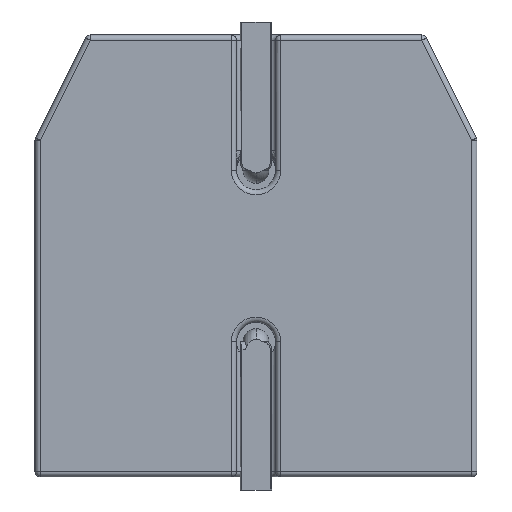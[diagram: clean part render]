
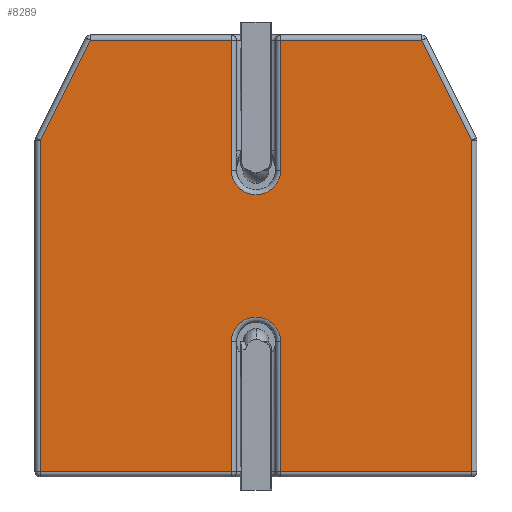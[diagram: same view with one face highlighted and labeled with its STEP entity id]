
A CAD part, left-side view. The second image highlights one B-rep face of the part: STEP entity #8289.
In plain terms, the highlighted planar face has unit normal (-1, 0, 0) as drawn and (0, -1, 0) by its records, which use the part's own axes.
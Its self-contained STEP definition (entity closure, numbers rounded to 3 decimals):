
#6063=DIRECTION('',(1.,0.,0.));
#6064=VECTOR('',#6063,7.35);
#6065=CARTESIAN_POINT('',(0.95,0.,-8.3));
#6066=LINE('',#6065,#6064);
#6067=DIRECTION('',(0.,0.,-1.));
#6068=VECTOR('',#6067,5.);
#6069=CARTESIAN_POINT('',(0.95,0.,-3.3));
#6070=LINE('',#6069,#6068);
#6071=DIRECTION('',(0.,0.,1.));
#6072=VECTOR('',#6071,5.);
#6073=CARTESIAN_POINT('',(-0.95,0.,-8.3));
#6074=LINE('',#6073,#6072);
#6075=DIRECTION('',(1.,0.,0.));
#6076=VECTOR('',#6075,7.35);
#6077=CARTESIAN_POINT('',(-8.3,0.,-8.3));
#6078=LINE('',#6077,#6076);
#6079=DIRECTION('',(0.,0.,1.));
#6080=VECTOR('',#6079,12.753);
#6081=CARTESIAN_POINT('',(-8.3,0.,-8.3));
#6082=LINE('',#6081,#6080);
#6083=DIRECTION('',(-0.447,0.,-0.894));
#6084=VECTOR('',#6083,4.301);
#6085=CARTESIAN_POINT('',(-6.376,0.,8.3));
#6086=LINE('',#6085,#6084);
#6087=DIRECTION('',(-1.,0.,0.));
#6088=VECTOR('',#6087,5.426);
#6089=CARTESIAN_POINT('',(-0.95,0.,8.3));
#6090=LINE('',#6089,#6088);
#6091=DIRECTION('',(0.,0.,1.));
#6092=VECTOR('',#6091,5.);
#6093=CARTESIAN_POINT('',(-0.95,0.,3.3));
#6094=LINE('',#6093,#6092);
#6095=DIRECTION('',(0.,0.,-1.));
#6096=VECTOR('',#6095,5.);
#6097=CARTESIAN_POINT('',(0.95,0.,8.3));
#6098=LINE('',#6097,#6096);
#6099=DIRECTION('',(-1.,0.,0.));
#6100=VECTOR('',#6099,5.426);
#6101=CARTESIAN_POINT('',(6.376,0.,8.3));
#6102=LINE('',#6101,#6100);
#6103=DIRECTION('',(-0.447,0.,0.894));
#6104=VECTOR('',#6103,4.301);
#6105=CARTESIAN_POINT('',(8.3,0.,4.453));
#6106=LINE('',#6105,#6104);
#6107=DIRECTION('',(0.,0.,1.));
#6108=VECTOR('',#6107,12.753);
#6109=CARTESIAN_POINT('',(8.3,0.,-8.3));
#6110=LINE('',#6109,#6108);
#6500=CARTESIAN_POINT('',(0.,0.,3.3));
#6501=DIRECTION('',(0.,1.,0.));
#6502=DIRECTION('',(1.,0.,0.));
#6503=AXIS2_PLACEMENT_3D('',#6500,#6501,#6502);
#6713=CARTESIAN_POINT('',(0.,0.,-3.3));
#6714=DIRECTION('',(0.,1.,0.));
#6715=DIRECTION('',(-1.,0.,0.));
#6716=AXIS2_PLACEMENT_3D('',#6713,#6714,#6715);
#7903=CARTESIAN_POINT('',(8.3,0.,-8.3));
#7904=CARTESIAN_POINT('',(8.3,0.,4.453));
#7905=VERTEX_POINT('',#7903);
#7906=VERTEX_POINT('',#7904);
#8011=CARTESIAN_POINT('',(-0.95,0.,-3.3));
#8012=CARTESIAN_POINT('',(0.95,0.,-3.3));
#8013=VERTEX_POINT('',#8011);
#8014=VERTEX_POINT('',#8012);
#8047=CARTESIAN_POINT('',(0.95,0.,3.3));
#8048=VERTEX_POINT('',#8047);
#8049=CARTESIAN_POINT('',(-0.95,0.,3.3));
#8050=VERTEX_POINT('',#8049);
#8055=CARTESIAN_POINT('',(-8.3,0.,4.453));
#8056=VERTEX_POINT('',#8055);
#8068=CARTESIAN_POINT('',(-6.376,0.,8.3));
#8070=VERTEX_POINT('',#8068);
#8138=CARTESIAN_POINT('',(-8.3,0.,-8.3));
#8139=VERTEX_POINT('',#8138);
#8140=CARTESIAN_POINT('',(6.376,0.,8.3));
#8141=VERTEX_POINT('',#8140);
#8171=CARTESIAN_POINT('',(-0.95,0.,-8.3));
#8173=VERTEX_POINT('',#8171);
#8195=CARTESIAN_POINT('',(0.95,0.,-8.3));
#8197=VERTEX_POINT('',#8195);
#8225=CARTESIAN_POINT('',(-0.95,0.,8.3));
#8226=VERTEX_POINT('',#8225);
#8228=CARTESIAN_POINT('',(0.95,0.,8.3));
#8230=VERTEX_POINT('',#8228);
#8254=CARTESIAN_POINT('',(0.,0.,0.));
#8255=DIRECTION('',(0.,1.,0.));
#8256=DIRECTION('',(0.,0.,1.));
#8257=AXIS2_PLACEMENT_3D('',#8254,#8255,#8256);
#8258=PLANE('',#8257);
#8260=ORIENTED_EDGE('',*,*,#8259,.F.);
#8262=ORIENTED_EDGE('',*,*,#8261,.F.);
#8264=ORIENTED_EDGE('',*,*,#8263,.F.);
#8266=ORIENTED_EDGE('',*,*,#8265,.F.);
#8268=ORIENTED_EDGE('',*,*,#8267,.F.);
#8270=ORIENTED_EDGE('',*,*,#8269,.T.);
#8272=ORIENTED_EDGE('',*,*,#8271,.F.);
#8274=ORIENTED_EDGE('',*,*,#8273,.F.);
#8276=ORIENTED_EDGE('',*,*,#8275,.F.);
#8278=ORIENTED_EDGE('',*,*,#8277,.F.);
#8280=ORIENTED_EDGE('',*,*,#8279,.F.);
#8282=ORIENTED_EDGE('',*,*,#8281,.F.);
#8284=ORIENTED_EDGE('',*,*,#8283,.F.);
#8286=ORIENTED_EDGE('',*,*,#8285,.F.);
#8287=EDGE_LOOP('',(#8260,#8262,#8264,#8266,#8268,#8270,#8272,#8274,#8276,#8278,
#8280,#8282,#8284,#8286));
#8288=FACE_OUTER_BOUND('',#8287,.F.);
#8289=ADVANCED_FACE('',(#8288),#8258,.F.);
#6504=CIRCLE('',#6503,0.95);
#6717=CIRCLE('',#6716,0.95);
#8259=EDGE_CURVE('',#8197,#7905,#6066,.T.);
#8261=EDGE_CURVE('',#8014,#8197,#6070,.T.);
#8263=EDGE_CURVE('',#8013,#8014,#6717,.T.);
#8265=EDGE_CURVE('',#8173,#8013,#6074,.T.);
#8267=EDGE_CURVE('',#8139,#8173,#6078,.T.);
#8269=EDGE_CURVE('',#8139,#8056,#6082,.T.);
#8271=EDGE_CURVE('',#8070,#8056,#6086,.T.);
#8273=EDGE_CURVE('',#8226,#8070,#6090,.T.);
#8275=EDGE_CURVE('',#8050,#8226,#6094,.T.);
#8277=EDGE_CURVE('',#8048,#8050,#6504,.T.);
#8279=EDGE_CURVE('',#8230,#8048,#6098,.T.);
#8281=EDGE_CURVE('',#8141,#8230,#6102,.T.);
#8283=EDGE_CURVE('',#7906,#8141,#6106,.T.);
#8285=EDGE_CURVE('',#7905,#7906,#6110,.T.);
